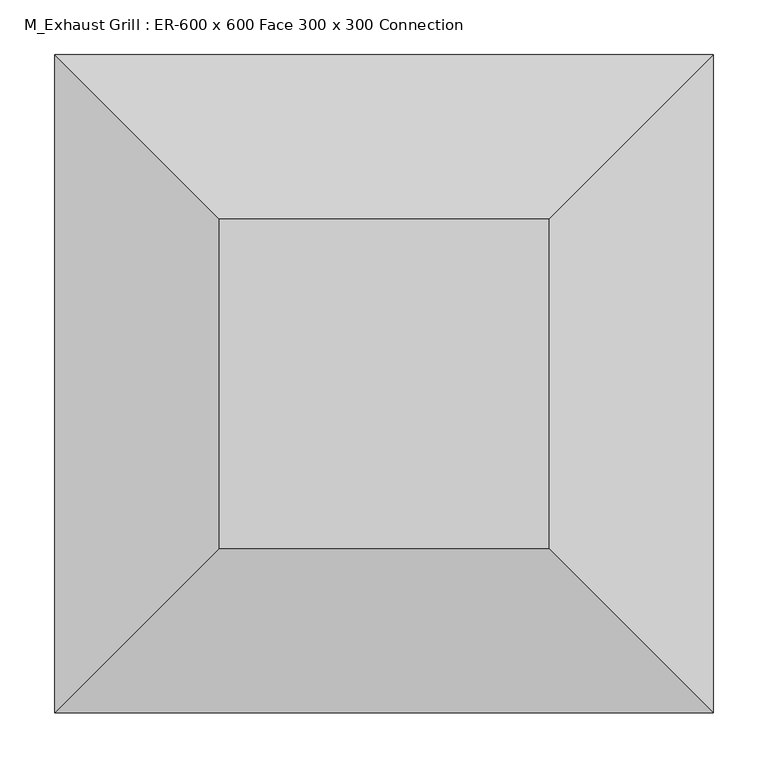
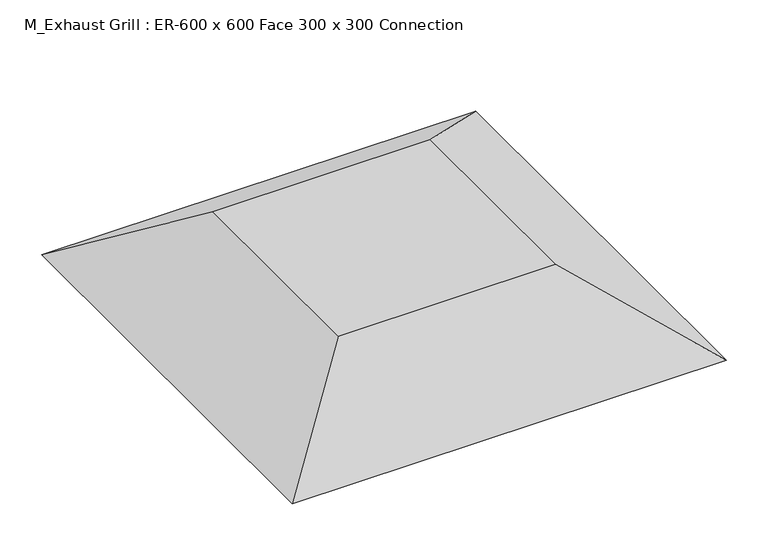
"""IFC4 building model written with IfcOpenShell, lengths in millimetres: air terminal geometry, M_Exhaust Grill : ER-600 x 600 Face 300 x 300 Connection."""

from ifc_helpers import new_model, si_unit, origin, place, context, project, spatial, faceted_brep, source, transform, mapped, element, save


def m_exhaust_grill_er_600_x_600_face_300_x_300_connection_ff221211(model_context):
    return source(origin(), model_context, "Body", "Brep", [
        faceted_brep([(150.0, 150.0, 101.6), (-150.0, 150.0, 101.6), (-150.0, -150.0, 101.6), (150.0, -150.0, 101.6), (300.0, 300.0, 0.0), (300.0, -300.0, 0.0), (-300.0, -300.0, 0.0), (-300.0, 300.0, 0.0)], [[[0, 1, 2, 3]], [[4, 5, 6, 7]], [[4, 7, 1, 0]], [[7, 6, 2, 1]], [[6, 5, 3, 2]], [[5, 4, 0, 3]]]),
    ])


if __name__ == "__main__":
    model = new_model("IFC4")
    model_context = context("Model", 3, world=origin())
    ifc_project = project(units=[si_unit("LENGTHUNIT", "METRE", prefix="MILLI")], contexts=[model_context])
    site = spatial("IfcSite", under=ifc_project)
    building = spatial("IfcBuilding", under=site)
    placement = place(None, origin())
    m_exhaust_grill_er_600_x_600_face_300_x_300_connection_shape = m_exhaust_grill_er_600_x_600_face_300_x_300_connection_ff221211(model_context)
    element("IfcAirTerminal", 1, ObjectType="M_Exhaust Grill : ER-600 x 600 Face 300 x 300 Connection", at=placement, inside=building, context=model_context, shape_type="MappedRepresentation", body=[
        mapped(m_exhaust_grill_er_600_x_600_face_300_x_300_connection_shape, transform((0.0, 0.0, 0.0), x_axis=(1.0, 0.0, 0.0), y_axis=(0.0, 1.0, 0.0), z_axis=(0.0, 0.0, 1.0))),
    ])
    save(model, "model.ifc")
